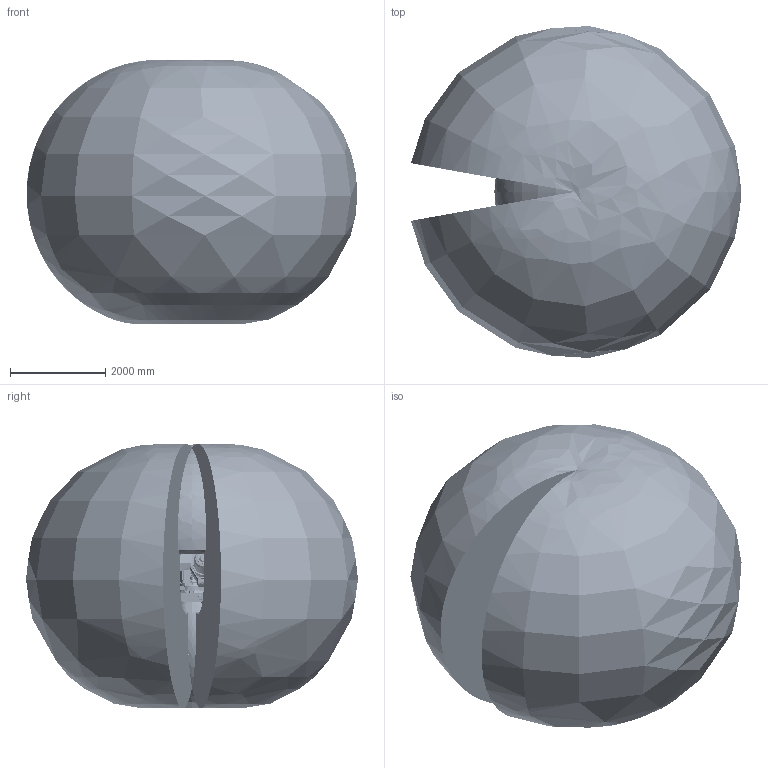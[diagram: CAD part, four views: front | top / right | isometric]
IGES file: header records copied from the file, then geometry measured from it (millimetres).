
Start section: SolidWorks IGES file using analytic representation for surfaces
Global section: file name: C:\DATA\SAP_DOC\LW\IRB 6730S\IRB6730S_210kg-350_OC_01_SW_J\export\IRB6730S_210kg-350_OC_01_IGES_J\IRB6730S_210kg-350_OC_01_ASM_CAD.igs; native system: SolidWorks 2024; preprocessor: SolidWorks 2024; author: SEJOVAS3; date: 260526.123237; units: millimetre
Bounding box: 6956.17 x 6982.64 x 5557.04 mm (x, y, z)
Surface area: 199269575.8 mm2 (no closed solid volume)
Topology: 0 solids, 0 shells, 8224 faces, 136208 edges, 135949 vertices
Faces by surface type: bspline 4664, revolution 3560
